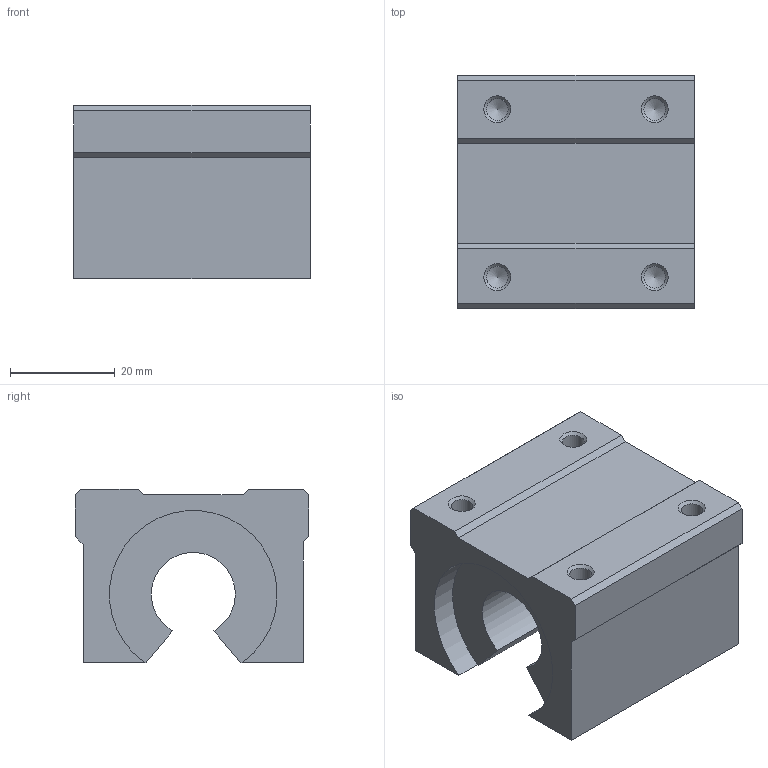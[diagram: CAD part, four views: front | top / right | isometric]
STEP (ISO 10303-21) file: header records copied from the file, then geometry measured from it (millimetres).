
FILE_DESCRIPTION(/* description */ (''),/* implementation_level */ '2;1');
FILE_NAME(/* name */ 'C:\Users\NIklas\Dropbox\WG Projekte\Kamp und Kötter\Artikel\Linearführung D16\Linearwagen D16.stp',/* time_stamp */ '2015-05-04T19:20:27+02:00',/* author */ ('Buskamp'),/* organization */ (''),/* preprocessor_version */ 'ST-DEVELOPER v15.2',/* originating_system */ 'Autodesk Inventor 2014',/* authorisation */ '');
FILE_SCHEMA (('AUTOMOTIVE_DESIGN { 1 0 10303 214 3 1 1 }'));
Length unit declared in the file: millimetre
Products named in the file (1): Linearwagen D16
Bounding box: 45 x 44.5 x 33 mm (x, y, z)
Volume: 44652.1 mm3; surface area: 11703.5 mm2
Topology: 1 solids, 1 shells, 36 faces, 94 edges, 60 vertices
Faces by surface type: plane 21, cone 8, cylinder 7
Full cylindrical faces by diameter (mm): 4.134 x4
Entity records: 1017 total; most frequent: CARTESIAN_POINT 171, DIRECTION 170, ORIENTED_EDGE 156, EDGE_CURVE 78, LINE 60, VECTOR 60, VERTEX_POINT 56, AXIS2_PLACEMENT_3D 55
